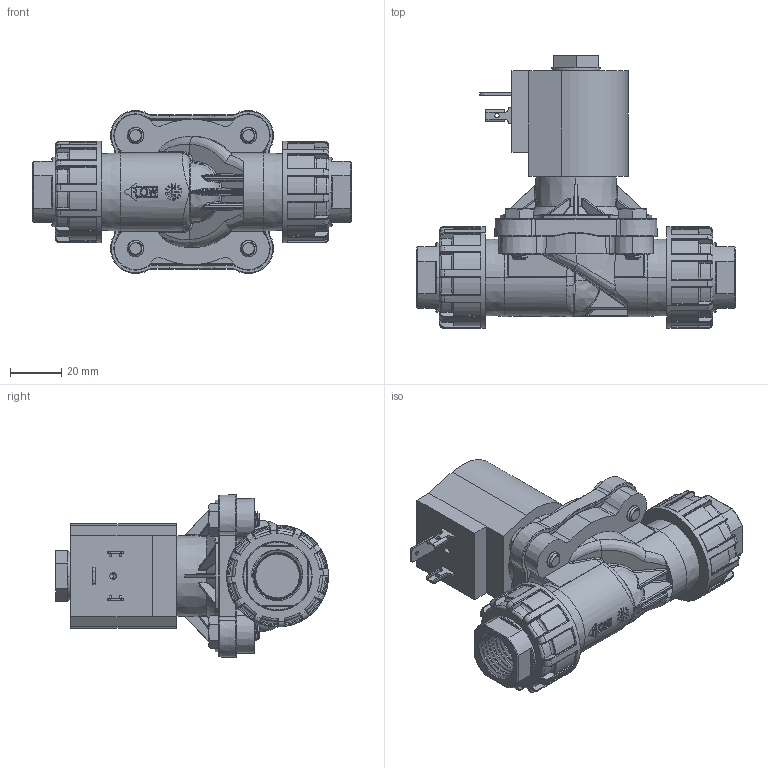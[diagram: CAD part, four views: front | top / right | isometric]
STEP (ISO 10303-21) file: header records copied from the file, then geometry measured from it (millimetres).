
FILE_DESCRIPTION (( 'STEP AP203' ), '1' );
FILE_NAME ('T201YxxxxPD2.STEP', '2024-05-06T15:35:07', ( '' ), ( '' ), 'SwSTEP 2.0', 'SolidWorks 2023', '' );
FILE_SCHEMA (( 'CONFIG_CONTROL_DESIGN' ));
Length unit declared in the file: millimetre
Products named in the file (1): T201YxxxxPD2
Bounding box: 124 x 106.33 x 63.5 mm (x, y, z)
Volume: 212492.5 mm3; surface area: 41903.4 mm2
Topology: 1 solids, 1 shells, 2575 faces, 6751 edges, 4133 vertices
Faces by surface type: bspline 932, plane 675, cylinder 406, torus 274, cone 203, sphere 85
Entity records: 123111 total; most frequent: CARTESIAN_POINT 67963, ORIENTED_EDGE 13272, DIRECTION 8986, EDGE_CURVE 6636, VERTEX_POINT 4130, AXIS2_PLACEMENT_3D 3327, EDGE_LOOP 2672, FACE_OUTER_BOUND 2575
